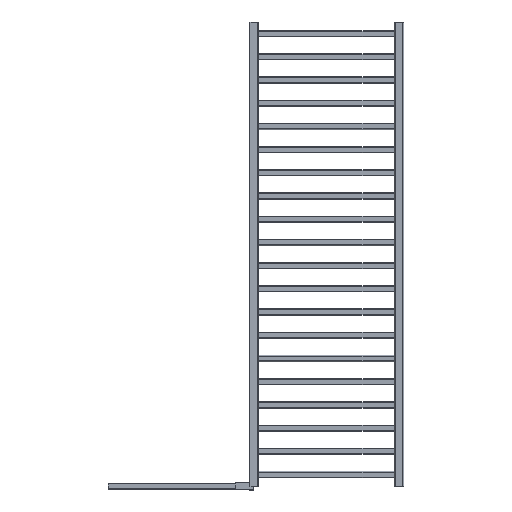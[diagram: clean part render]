
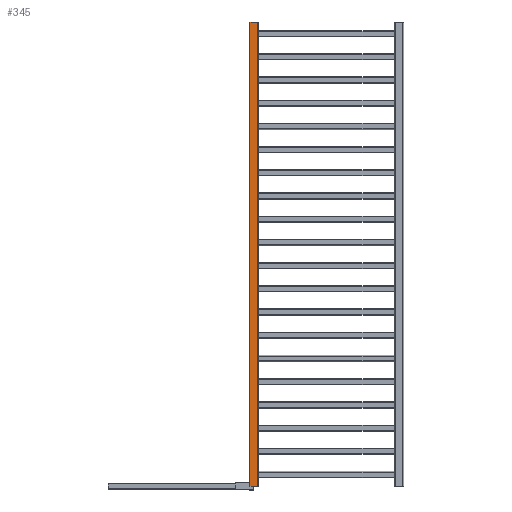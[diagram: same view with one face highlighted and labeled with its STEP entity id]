
A CAD part, left-side view. The second image highlights one B-rep face of the part: STEP entity #345.
In plain terms, the highlighted planar face has unit normal (-1, 0, 0).
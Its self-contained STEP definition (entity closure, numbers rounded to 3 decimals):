
#345 = ADVANCED_FACE( '', ( #738 ), #739, .F. );
#738 = FACE_OUTER_BOUND( '', #1215, .T. );
#739 = PLANE( '', #1216 );
#1215 = EDGE_LOOP( '', ( #2134, #2135, #2136, #2137 ) );
#1216 = AXIS2_PLACEMENT_3D( '', #2138, #2139, #2140 );
#2134 = ORIENTED_EDGE( '', *, *, #2936, .F. );
#2135 = ORIENTED_EDGE( '', *, *, #2775, .T. );
#2136 = ORIENTED_EDGE( '', *, *, #2867, .T. );
#2137 = ORIENTED_EDGE( '', *, *, #2915, .T. );
#2138 = CARTESIAN_POINT( '', ( -15., 15., 1500. ) );
#2139 = DIRECTION( '', ( 1., 0., 0. ) );
#2140 = DIRECTION( '', ( 0., 0., -1. ) );
#2775 = EDGE_CURVE( '', #3333, #3335, #3337, .T. );
#2867 = EDGE_CURVE( '', #3335, #3474, #3476, .T. );
#2915 = EDGE_CURVE( '', #3474, #3540, #3543, .F. );
#2936 = EDGE_CURVE( '', #3333, #3540, #3568, .T. );
#3333 = VERTEX_POINT( '', #4109 );
#3335 = VERTEX_POINT( '', #4111 );
#3337 = LINE( '', #4113, #4114 );
#3474 = VERTEX_POINT( '', #4309 );
#3476 = LINE( '', #4311, #4312 );
#3540 = VERTEX_POINT( '', #4404 );
#3543 = LINE( '', #4407, #4408 );
#3568 = LINE( '', #4446, #4447 );
#4109 = CARTESIAN_POINT( '', ( -15., 12., 1500. ) );
#4111 = CARTESIAN_POINT( '', ( -15., 12., 0. ) );
#4113 = CARTESIAN_POINT( '', ( -15., 12., 1500. ) );
#4114 = VECTOR( '', #4787, 1000. );
#4309 = CARTESIAN_POINT( '', ( -15., -12., 0. ) );
#4311 = CARTESIAN_POINT( '', ( -15., 15., 0. ) );
#4312 = VECTOR( '', #4873, 1000. );
#4404 = CARTESIAN_POINT( '', ( -15., -12., 1500. ) );
#4407 = CARTESIAN_POINT( '', ( -15., -12., 1500. ) );
#4408 = VECTOR( '', #4917, 1000. );
#4446 = CARTESIAN_POINT( '', ( -15., 15., 1500. ) );
#4447 = VECTOR( '', #4931, 1000. );
#4787 = DIRECTION( '', ( 0., 0., -1. ) );
#4873 = DIRECTION( '', ( 0., -1., 0. ) );
#4917 = DIRECTION( '', ( 0., 0., -1. ) );
#4931 = DIRECTION( '', ( 0., -1., 0. ) );
